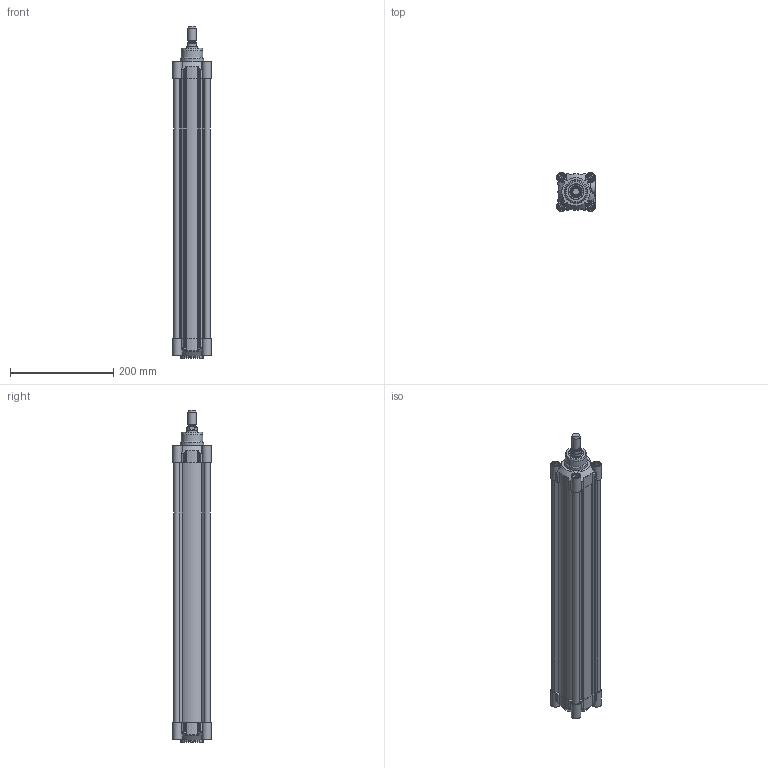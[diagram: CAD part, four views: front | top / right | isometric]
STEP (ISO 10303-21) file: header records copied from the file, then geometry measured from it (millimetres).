
FILE_DESCRIPTION(/* description */ ('CILINDRO D.E. MAGNETICO AMMORTIZZATO ISO 15552'),/* implementation_level */ '2;1');
FILE_NAME(/* name */ 'T:\Archivio Inventor\- 00 NUOVI STP PER SITO CON STELO CHE SI MUOVE\SERIE H - U\SERIE HDM\HDM063 - TUBO NUOVO\HDM063.450.GS.M.stp',/* time_stamp */ '2018-07-30T14:39:52+02:00',/* author */ ('carlo.corazza'),/* organization */ (''),/* preprocessor_version */ 'ST-DEVELOPER v16.5',/* originating_system */ 'Autodesk Inventor 2017',/* authorisation */ '');
FILE_SCHEMA (('AUTOMOTIVE_DESIGN { 1 0 10303 214 3 1 1 }'));
Length unit declared in the file: millimetre
Products named in the file (5): HDM063.450.GS.M; TP; TA; STELO-450; CORPO-450
Assembly tree (4 placements, depth 2):
  HDM063.450.GS.M
    TP
    TA
    STELO-450
    CORPO-450
Bounding box: 75 x 75 x 644 mm (x, y, z)
Volume: 915801 mm3; surface area: 475006.9 mm2
Topology: 4 solids, 27 shells, 1241 faces, 2936 edges, 1818 vertices
Faces by surface type: plane 368, cylinder 297, bspline 288, torus 108, cone 106, sphere 74
Full cylindrical faces by diameter (mm): 3 x2, 3.4 x2, 4.8 x2, 5.25 x2, 6.647 x8, 8 x8, 8.3 x12, 9.8 x4, 9.9 x2, 10 x6, 12 x3, 13 x8, 13.3 x8, 13.5 x1, 14.95 x2, 16 x1, 19.5 x1, 20 x1, 20.8 x1, 20.847 x1, 24 x1, 26 x2, 30 x3, 42 x1, 45 x2, 63 x1
Entity records: 40772 total; most frequent: CARTESIAN_POINT 13075, ORIENTED_EDGE 5326, DIRECTION 5100, EDGE_CURVE 2663, AXIS2_PLACEMENT_3D 2037, VERTEX_POINT 1763, EDGE_LOOP 1576, STYLED_ITEM 1245
